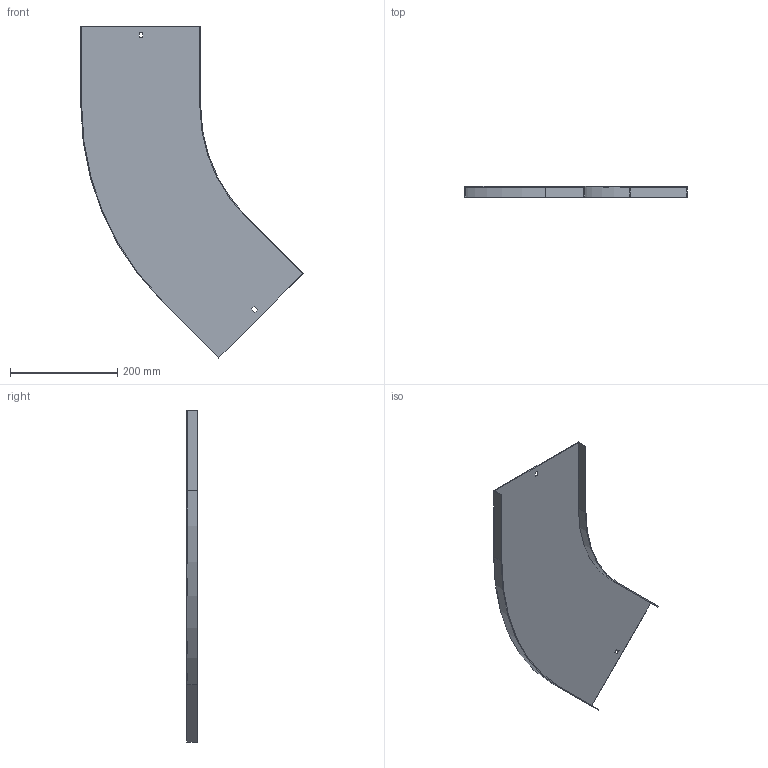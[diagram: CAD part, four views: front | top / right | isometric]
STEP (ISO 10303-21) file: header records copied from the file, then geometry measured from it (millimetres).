
FILE_DESCRIPTION (( 'STEP AP214' ), '1' );
FILE_NAME ('11N3P200.step', '2025-02-21T13:34:53', ( '' ), ( '' ), 'SwSTEP 2.0', 'SolidWorks 2023', '' );
FILE_SCHEMA (( 'AUTOMOTIVE_DESIGN' ));
Length unit declared in the file: millimetre
Products named in the file (1): 11N3P200
Bounding box: 413.57 x 20 x 617.75 mm (x, y, z)
Volume: 239346.6 mm3; surface area: 321844.3 mm2
Topology: 1 solids, 1 shells, 26 faces, 72 edges, 48 vertices
Faces by surface type: plane 22, cylinder 4
Entity records: 855 total; most frequent: CARTESIAN_POINT 147, ORIENTED_EDGE 144, DIRECTION 134, EDGE_CURVE 72, VECTOR 64, LINE 64, VERTEX_POINT 48, AXIS2_PLACEMENT_3D 35
